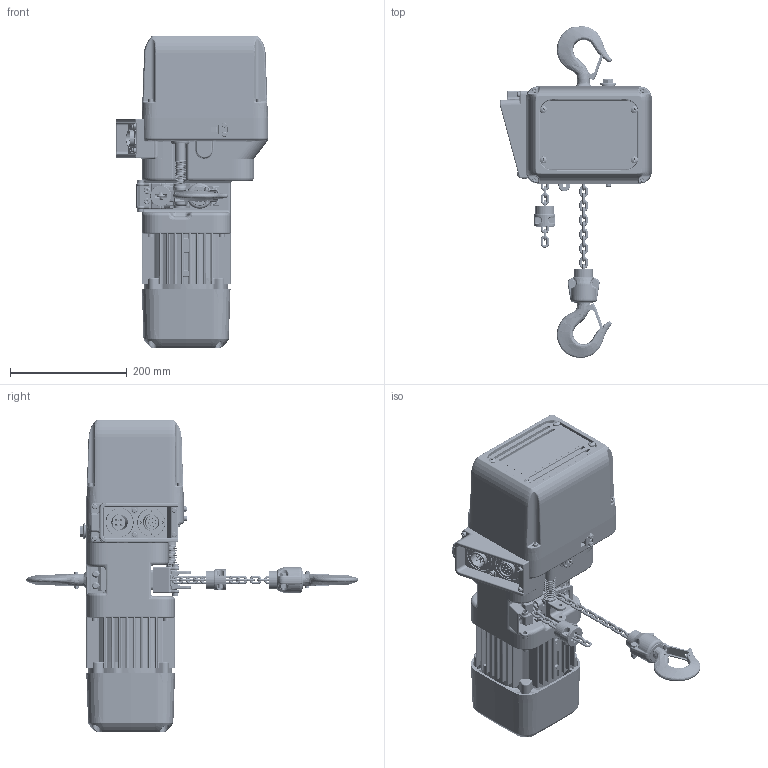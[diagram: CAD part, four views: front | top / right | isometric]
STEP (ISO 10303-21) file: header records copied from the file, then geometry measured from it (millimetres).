
FILE_DESCRIPTION (( 'STEP AP214' ), '1' );
FILE_NAME ('NER2003SD.STEP', '2026-08-03T19:39:57', ( '' ), ( '' ), 'SwSTEP 2.0', 'SolidWorks 2026', '' );
FILE_SCHEMA (( 'AUTOMOTIVE_DESIGN' ));
Length unit declared in the file: millimetre
Products named in the file (53): ER1BS9535; ER2BS9015; J1AP24001212; ER2CS1001; socket head cap screw_am_B18.3.1M - 6 x 1.0 x 12 Hex SHCS -- 12CHX; LCER2003NP; ES127005S; ER2CS9001; ER2BS9331; single coil rectangular section spring washer_bsi_Rectangular section spring washer BS 4464 - 16 (Type B); LCER2003NP (SHAPED); ER2CS9511; ER2BS9101; J1BY9-0602525_B18.2.3.1M - Hex cap screw, M6 x 1.0 x 25 --25C; ER2BI2104; ER2CS9186; ER2BS9105; ER2BS9011; ER2BHM03I9A51; 9091252_B18.3.1M - 6 x 1.0 x 30 Hex SHCS -- 30CHX; J1NA001-20060_B18.2.4.1M - Hex nut, Style 1,  M6 x 1 --D-C; ER2CS2523; ER2BS9332; ES558003; ER2CS2564; E3S111003; ER2BI9103; ER2CS1002; ES1045003; ER2BI9104_ER2BI9104; Spring Lock Washer for M4; ER2CS9357; NER2003SD; 9091233_9091233; ER2BS1011; ER2BS9107; ER2BS2015; ER2BS9053; pan cross head_am_B18.6.7M - M6 x 1.0 x 16 Type I Cross Recessed PHMS --16N; 9091234_B18.3.1M - 5 x 0.8 x 45 Hex SHCS -- 22CHX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
Assembly tree (126 placements, depth 4):
  NER2003SD
    ER2BS9101
    ER2BS9105
    ER2BS9107
    9091234_B18.3.1M - 5 x 0.8 x 45 Hex SHCS -- 22CHX  x4
    9091252_B18.3.1M - 6 x 1.0 x 30 Hex SHCS -- 30CHX  x4
    E3S111003  x2
    E3S112003  x2
    ER2CS1001
      ER2CS9001
      ER2CS1002
    ER2CS9121  x2
    ER2CS9186
    ER2CS9123
    socket head cap screw_am_B18.3.1M - 6 x 1.0 x 12 Hex SHCS -- 12CHX
    ER2BS9331
    ER2BS9338
    ER2BS9337
    ER2CS9357
    ER2BS1011
      ER2BS9011
      ER2CS1002
      ER2BS2015
        ER2BS9015  x2
        J1BY9-0602525_B18.2.3.1M - Hex cap screw, M6 x 1.0 x 25 --25C  x2
        J1WS011-20060_Rectangular section spring washer BS 4464 - 16 (Type B)  x2
        J1NA001-20060_B18.2.4.1M - Hex nut, Style 1,  M6 x 1 --D-C  x2
    LCER2003NP
      LCER2003NP  x18
    ER2BS9053  x2
    9091251_9091251  x4
    single coil rectangular section spring washer_bsi_Rectangular section spring washer BS 4464 - 16 (Type B)  x4
    ER2CS9511
    ER2CS2523
    ER2CS2564
    LCER2003NP (SHAPED)
      LCER2003NP  x14
    ES1045003
    ER1BS9135
    ES558003  x8
    MS561010  x6
    ES127005S
    ER1BS9535
    M6F554010  x2
    ER2BI2104
      ER2BI9104_ER2BI9104
      ER2BI9185_ER2BI9185
      J1AP24001212  x4
        Spring Lock Washer for M4
        pan cross head_am_B18.6.7M - M6 x 1.0 x 16 Type I Cross Recessed PHMS --16N
    ER2BI9103
    ER2BS9332
    ER2BHM03I9A51
    9679708_9679708  x4
    9091233_9091233  x4
Bounding box: 260 x 568.44 x 535.57 mm (x, y, z)
Volume: 11328745.3 mm3; surface area: 1075617.1 mm2
Topology: 138 solids, 138 shells, 5594 faces, 14561 edges, 9267 vertices
Faces by surface type: cylinder 2086, plane 2027, torus 686, bspline 395, cone 336, sphere 64
Entity records: 162285 total; most frequent: CARTESIAN_POINT 58512, ORIENTED_EDGE 21214, DIRECTION 20940, EDGE_CURVE 10607, AXIS2_PLACEMENT_3D 8011, VERTEX_POINT 6868, VECTOR 4918, LINE 4918
